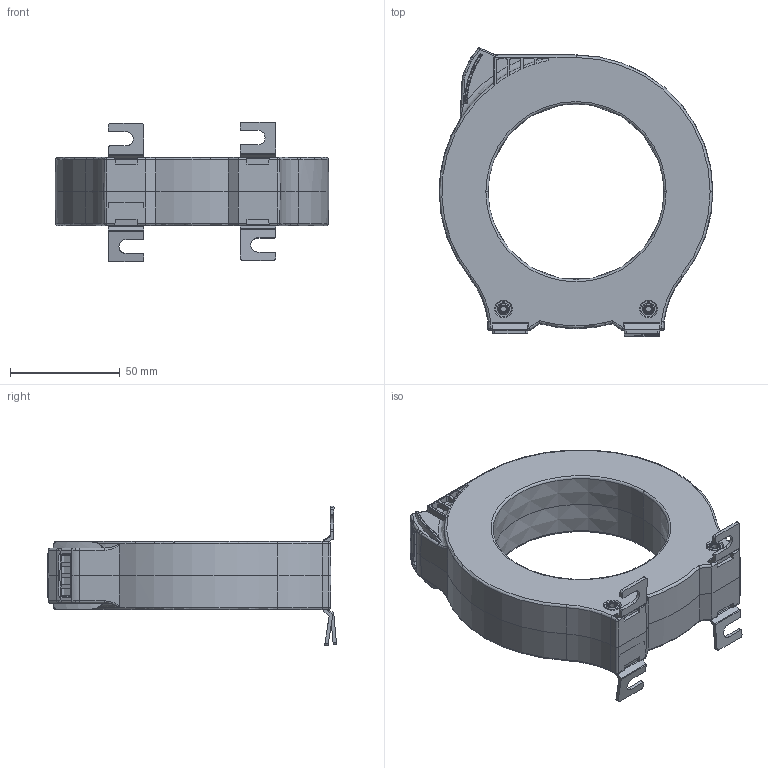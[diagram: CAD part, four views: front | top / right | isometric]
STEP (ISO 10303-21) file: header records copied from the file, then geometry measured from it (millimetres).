
FILE_DESCRIPTION((''),'2;1');
FILE_NAME('MC1-80_ASM','2024-09-23T11:54:39',('lesquembri'),(''),'CREO PARAMETRIC BY PTC INC, 2018260','CREO PARAMETRIC BY PTC INC, 2018260','');
FILE_SCHEMA(('AUTOMOTIVE_DESIGN { 1 0 10303 214 1 1 1 1 }'));
Length unit declared in the file: millimetre
Products named in the file (7): C__INF_WG80_4P_1; C__SUP_WG80_4P_1; MSG04001_1; _WG80_4P_1; WG80_4P_ASM_1_ASM; 908555; MC1-80_ASM
Assembly tree (9 placements, depth 3):
  MC1-80_ASM
    WG80_4P_ASM_1_ASM
      C__INF_WG80_4P_1
      C__SUP_WG80_4P_1
      MSG04001_1
      _WG80_4P_1
    908555  x4
Bounding box: 124.57 x 131.45 x 63.52 mm (x, y, z)
Volume: 2340.9 mm3; surface area: 97076.1 mm2
Topology: 4 solids, 9 shells, 1014 faces, 2715 edges, 1739 vertices
Faces by surface type: plane 478, cone 248, cylinder 178, torus 72, bspline 34, sphere 4
Entity records: 42972 total; most frequent: CARTESIAN_POINT 9257, ORIENTED_EDGE 4886, DIRECTION 4730, PRESENTATION_STYLE_ASSIGNMENT 2517, STYLED_ITEM 2517, CURVE_STYLE 2511, EDGE_CURVE 2511, AXIS2_PLACEMENT_3D 1704
